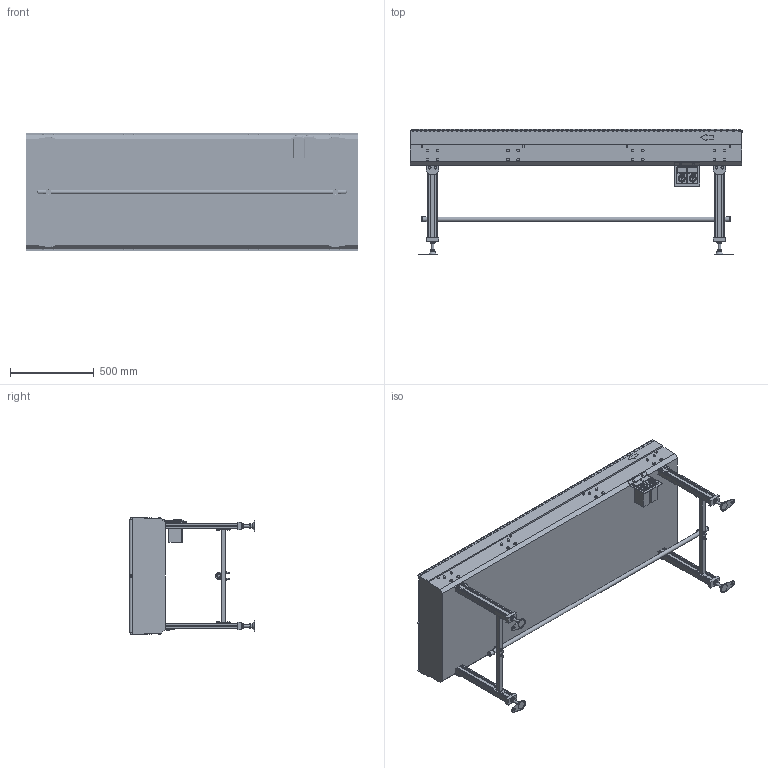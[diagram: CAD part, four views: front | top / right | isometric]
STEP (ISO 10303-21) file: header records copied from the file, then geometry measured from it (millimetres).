
FILE_DESCRIPTION (( 'STEP AP214' ), '1' );
FILE_NAME ('GA22-304x2-600-200-DC-7.5.STEP', '2024-08-08T23:26:35', ( '' ), ( '' ), 'SwSTEP 2.0', 'SolidWorks 2017', '' );
FILE_SCHEMA (( 'AUTOMOTIVE_DESIGN' ));
Length unit declared in the file: millimetre
Products named in the file (1): GA22-304x2-600-200-DC-7.5
Bounding box: 1985 x 750 x 703.81 mm (x, y, z)
Volume: 293319342.2 mm3; surface area: 8492064.6 mm2
Topology: 19 solids, 19 shells, 2897 faces, 7276 edges, 4868 vertices
Faces by surface type: plane 1948, cylinder 915, cone 18, torus 16
Full cylindrical faces by diameter (mm): 4.5 x8, 6 x142, 7 x4, 8 x284, 8.723 x8, 12.2 x2, 13 x4, 15.4 x48, 16 x8, 17 x12, 25.4 x1, 28.4 x2, 29.825 x2, 30 x4
Entity records: 113848 total; most frequent: CARTESIAN_POINT 16405, DIRECTION 13241, ORIENTED_EDGE 12834, EDGE_CURVE 6417, VERTEX_POINT 4564, AXIS2_PLACEMENT_3D 4506, VECTOR 4229, LINE 4229
